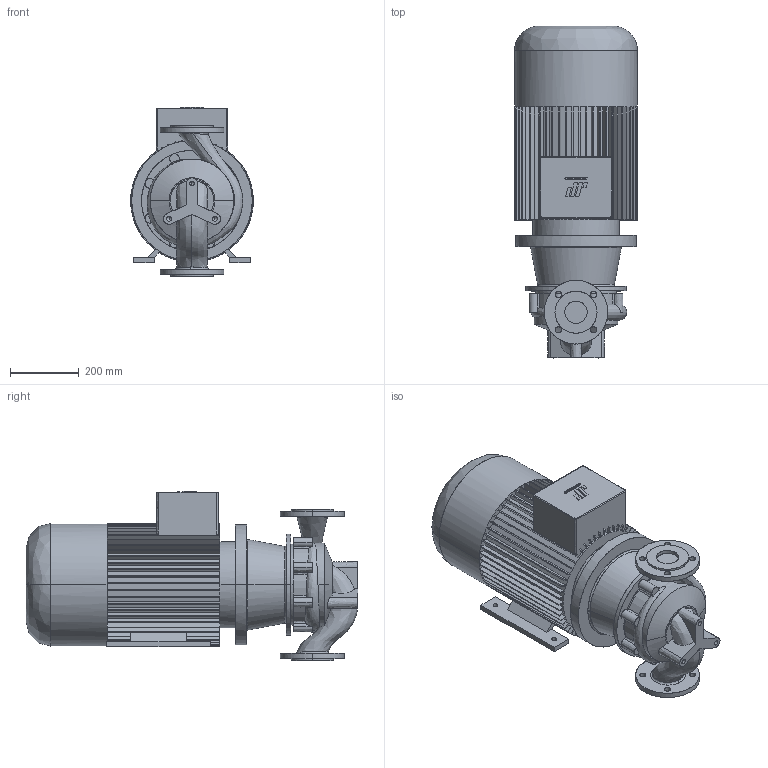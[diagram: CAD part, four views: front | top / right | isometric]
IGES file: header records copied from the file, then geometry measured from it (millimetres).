
Start section: CombiLine
Global section: file name: CLB_65-200_IEC180M_ND10.igs; native system:  By UGS Corp.; preprocessor: XPlus GENERIC/IGES 3.0; author: Stageplaats; organization: Johnson Pump Water B.V.; date: 20070716.134821; units: millimetre
Bounding box: 356 x 963.5 x 491 mm (x, y, z)
Surface area: 2170937.4 mm2 (no closed solid volume)
Topology: 0 solids, 0 shells, 588 faces, 3562 edges, 3556 vertices
Faces by surface type: bspline 588
